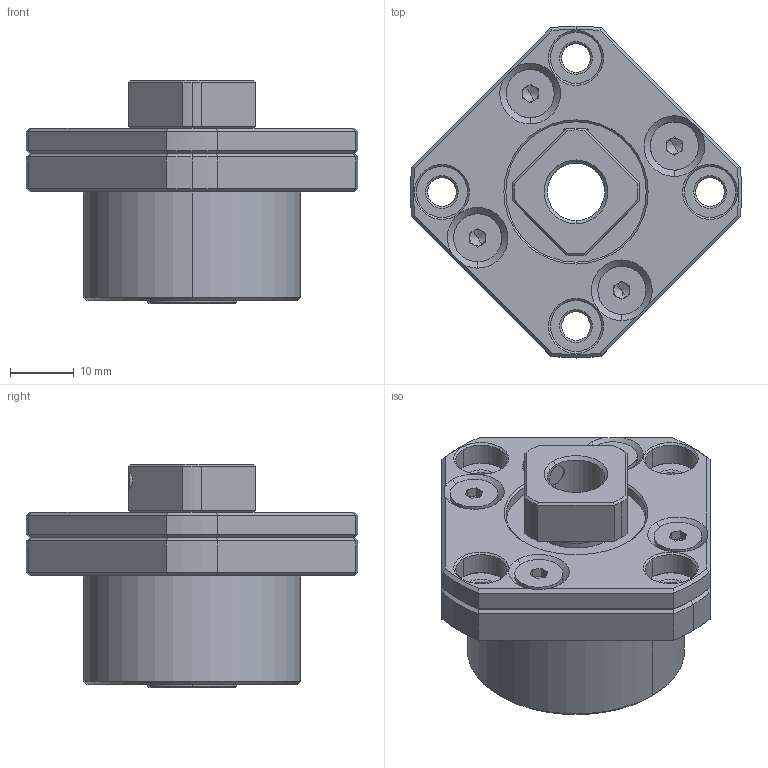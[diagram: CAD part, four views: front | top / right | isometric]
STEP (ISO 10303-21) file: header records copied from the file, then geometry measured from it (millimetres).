
FILE_DESCRIPTION (( 'STEP AP203' ), '1' );
FILE_NAME ('FSGK-10_203.STEP', '2013-02-28T00:25:50', ( '' ), ( '' ), 'SwSTEP 2.0', 'SolidWorks 2012', '' );
FILE_SCHEMA (( 'CONFIG_CONTROL_DESIGN' ));
Length unit declared in the file: millimetre
Products named in the file (1): FSGK-10_203
Bounding box: 51.93 x 52 x 35 mm (x, y, z)
Volume: 29131 mm3; surface area: 11654.7 mm2
Topology: 1 solids, 17 shells, 413 faces, 954 edges, 566 vertices
Faces by surface type: cone 148, plane 130, cylinder 111, torus 24
Entity records: 11786 total; most frequent: CARTESIAN_POINT 2187, DIRECTION 2161, ORIENTED_EDGE 1872, EDGE_CURVE 936, AXIS2_PLACEMENT_3D 878, VERTEX_POINT 566, CIRCLE 464, EDGE_LOOP 454
